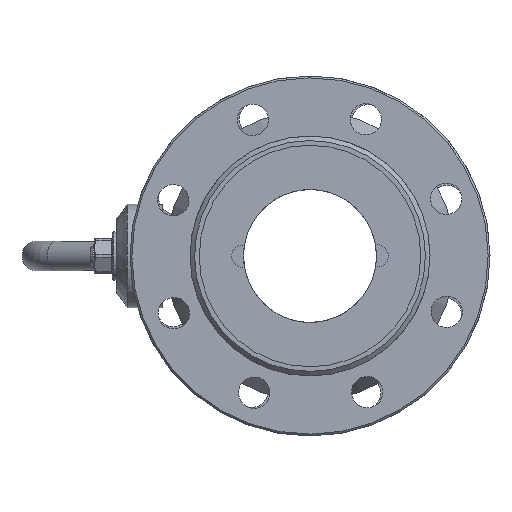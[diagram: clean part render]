
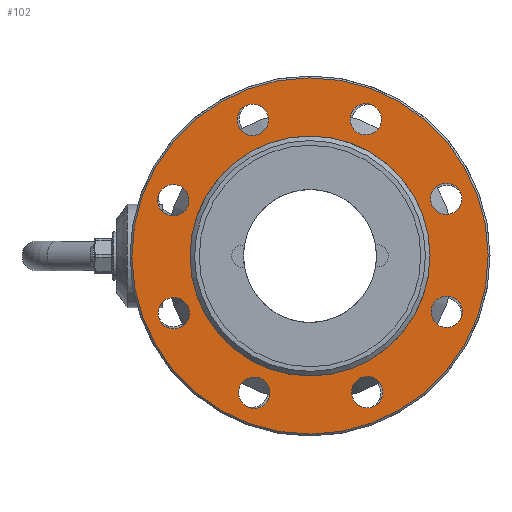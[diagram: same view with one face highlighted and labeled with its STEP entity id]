
A CAD part, left-side view. The second image highlights one B-rep face of the part: STEP entity #102.
In plain terms, the highlighted planar face has unit normal (-1, 0, 0).
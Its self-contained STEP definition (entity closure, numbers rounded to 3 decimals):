
#102=ADVANCED_FACE('',(#651,#653,#655,#657,#659,#661,#663,#665,#667,#669),#671,.T.);
#651=FACE_BOUND('',#652,.T.);
#652=EDGE_LOOP('',(#1968));
#653=FACE_BOUND('',#654,.T.);
#654=EDGE_LOOP('',(#1969));
#655=FACE_BOUND('',#656,.T.);
#656=EDGE_LOOP('',(#1970));
#657=FACE_BOUND('',#658,.T.);
#658=EDGE_LOOP('',(#1971));
#659=FACE_BOUND('',#660,.T.);
#660=EDGE_LOOP('',(#1972));
#661=FACE_BOUND('',#662,.T.);
#662=EDGE_LOOP('',(#1973));
#663=FACE_BOUND('',#664,.T.);
#664=EDGE_LOOP('',(#1974));
#665=FACE_BOUND('',#666,.T.);
#666=EDGE_LOOP('',(#1975));
#667=FACE_BOUND('',#668,.T.);
#668=EDGE_LOOP('',(#1976));
#669=FACE_OUTER_BOUND('',#670,.T.);
#670=EDGE_LOOP('',(#1977));
#671=PLANE('',#672);
#672=AXIS2_PLACEMENT_3D('',#673,#674,#675);
#673=CARTESIAN_POINT('',(-100.,0.,0.));
#674=DIRECTION('',(-1.,0.,0.));
#675=DIRECTION('',(0.,1.,-0.005));
#1968=ORIENTED_EDGE('',*,*,#3137,.T.);
#1969=ORIENTED_EDGE('',*,*,#3127,.T.);
#1970=ORIENTED_EDGE('',*,*,#3138,.T.);
#1971=ORIENTED_EDGE('',*,*,#3139,.T.);
#1972=ORIENTED_EDGE('',*,*,#3140,.T.);
#1973=ORIENTED_EDGE('',*,*,#3141,.T.);
#1974=ORIENTED_EDGE('',*,*,#3142,.T.);
#1975=ORIENTED_EDGE('',*,*,#3143,.T.);
#1976=ORIENTED_EDGE('',*,*,#3144,.T.);
#1977=ORIENTED_EDGE('',*,*,#3145,.F.);
#3127=EDGE_CURVE('',#3481,#3481,#3483,.T.);
#3137=EDGE_CURVE('',#3498,#3498,#3499,.F.);
#3138=EDGE_CURVE('',#3500,#3500,#3501,.F.);
#3139=EDGE_CURVE('',#3502,#3502,#3503,.F.);
#3140=EDGE_CURVE('',#3504,#3504,#3505,.F.);
#3141=EDGE_CURVE('',#3506,#3506,#3507,.F.);
#3142=EDGE_CURVE('',#3508,#3508,#3509,.F.);
#3143=EDGE_CURVE('',#3510,#3510,#3511,.F.);
#3144=EDGE_CURVE('',#3512,#3512,#3513,.F.);
#3145=EDGE_CURVE('',#3514,#3514,#3515,.T.);
#3481=VERTEX_POINT('',#4060);
#3483=CIRCLE('',#4064,65.);
#3498=VERTEX_POINT('',#4106);
#3499=CIRCLE('',#4107,8.5);
#3500=VERTEX_POINT('',#4111);
#3501=CIRCLE('',#4112,8.5);
#3502=VERTEX_POINT('',#4116);
#3503=CIRCLE('',#4117,8.5);
#3504=VERTEX_POINT('',#4121);
#3505=CIRCLE('',#4122,8.5);
#3506=VERTEX_POINT('',#4126);
#3507=CIRCLE('',#4127,8.5);
#3508=VERTEX_POINT('',#4131);
#3509=CIRCLE('',#4132,8.5);
#3510=VERTEX_POINT('',#4136);
#3511=CIRCLE('',#4137,8.5);
#3512=VERTEX_POINT('',#4141);
#3513=CIRCLE('',#4142,8.5);
#3514=VERTEX_POINT('',#4146);
#3515=CIRCLE('',#4147,96.5);
#4060=CARTESIAN_POINT('',(-100.,64.999,-0.33));
#4064=AXIS2_PLACEMENT_3D('',#4065,#4066,#4067);
#4065=CARTESIAN_POINT('',(-100.,0.,0.));
#4066=DIRECTION('',(1.,0.,0.));
#4067=DIRECTION('',(0.,1.,-0.005));
#4106=CARTESIAN_POINT('',(-100.,-74.108,-38.739));
#4107=AXIS2_PLACEMENT_3D('',#4108,#4109,#4110);
#4108=CARTESIAN_POINT('',(-100.,-74.065,-30.239));
#4109=DIRECTION('',(-1.,0.,0.));
#4110=DIRECTION('',(0.,-0.005,-1.));
#4111=CARTESIAN_POINT('',(-100.,-25.01,-79.795));
#4112=AXIS2_PLACEMENT_3D('',#4113,#4114,#4115);
#4113=CARTESIAN_POINT('',(-100.,-30.99,-73.754));
#4114=DIRECTION('',(-1.,0.,0.));
#4115=DIRECTION('',(0.,0.704,-0.711));
#4116=CARTESIAN_POINT('',(-100.,38.739,-74.108));
#4117=AXIS2_PLACEMENT_3D('',#4118,#4119,#4120);
#4118=CARTESIAN_POINT('',(-100.,30.239,-74.065));
#4119=DIRECTION('',(-1.,0.,0.));
#4120=DIRECTION('',(0.,1.,-0.005));
#4121=CARTESIAN_POINT('',(-100.,79.795,-25.01));
#4122=AXIS2_PLACEMENT_3D('',#4123,#4124,#4125);
#4123=CARTESIAN_POINT('',(-100.,73.754,-30.99));
#4124=DIRECTION('',(-1.,0.,0.));
#4125=DIRECTION('',(0.,0.711,0.704));
#4126=CARTESIAN_POINT('',(-100.,74.108,38.739));
#4127=AXIS2_PLACEMENT_3D('',#4128,#4129,#4130);
#4128=CARTESIAN_POINT('',(-100.,74.065,30.239));
#4129=DIRECTION('',(-1.,0.,0.));
#4130=DIRECTION('',(0.,0.005,1.));
#4131=CARTESIAN_POINT('',(-100.,25.01,79.795));
#4132=AXIS2_PLACEMENT_3D('',#4133,#4134,#4135);
#4133=CARTESIAN_POINT('',(-100.,30.99,73.754));
#4134=DIRECTION('',(-1.,0.,0.));
#4135=DIRECTION('',(0.,-0.704,0.711));
#4136=CARTESIAN_POINT('',(-100.,-38.739,74.108));
#4137=AXIS2_PLACEMENT_3D('',#4138,#4139,#4140);
#4138=CARTESIAN_POINT('',(-100.,-30.239,74.065));
#4139=DIRECTION('',(-1.,0.,0.));
#4140=DIRECTION('',(0.,-1.,0.005));
#4141=CARTESIAN_POINT('',(-100.,-79.795,25.01));
#4142=AXIS2_PLACEMENT_3D('',#4143,#4144,#4145);
#4143=CARTESIAN_POINT('',(-100.,-73.754,30.99));
#4144=DIRECTION('',(-1.,0.,0.));
#4145=DIRECTION('',(0.,-0.711,-0.704));
#4146=CARTESIAN_POINT('',(-100.,96.499,-0.49));
#4147=AXIS2_PLACEMENT_3D('',#4148,#4149,#4150);
#4148=CARTESIAN_POINT('',(-100.,0.,0.));
#4149=DIRECTION('',(1.,0.,0.));
#4150=DIRECTION('',(0.,1.,-0.005));
